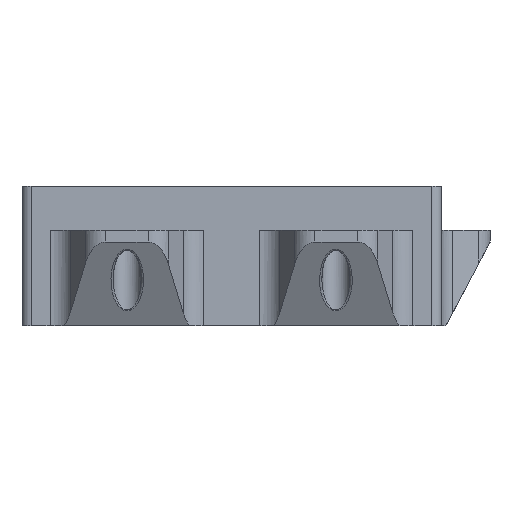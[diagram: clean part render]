
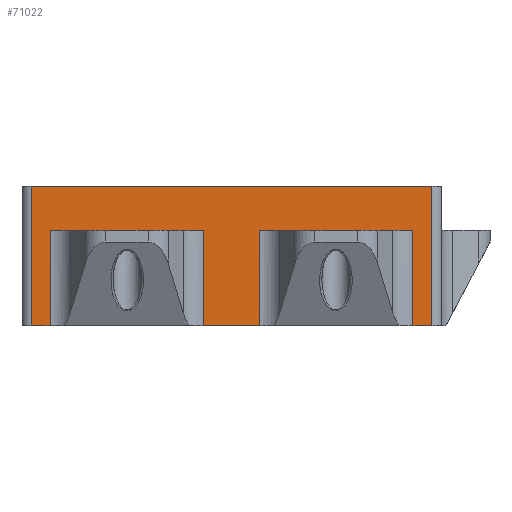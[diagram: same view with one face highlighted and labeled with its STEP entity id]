
A CAD part, left-side view. The second image highlights one B-rep face of the part: STEP entity #71022.
In plain terms, the highlighted planar face has unit normal (-1, 0, 0).
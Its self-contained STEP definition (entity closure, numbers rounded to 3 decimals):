
#1562=PLANE('',#74989);
#4963=FACE_OUTER_BOUND('',#8571,.T.);
#8571=EDGE_LOOP('',(#51994,#51995,#51996,#51997,#51998,#51999,#52000,#52001,
#52002,#52003,#52004,#52005));
#13289=LINE('',#99055,#22924);
#13296=LINE('',#99077,#22931);
#13298=LINE('',#99085,#22933);
#13300=LINE('',#99092,#22935);
#13367=LINE('',#99335,#23002);
#13369=LINE('',#99341,#23004);
#13370=LINE('',#99343,#23005);
#13371=LINE('',#99344,#23006);
#13372=LINE('',#99346,#23007);
#13373=LINE('',#99347,#23008);
#13374=LINE('',#99349,#23009);
#13375=LINE('',#99350,#23010);
#22924=VECTOR('',#80489,10.);
#22931=VECTOR('',#80506,10.);
#22933=VECTOR('',#80512,10.);
#22935=VECTOR('',#80518,10.);
#23002=VECTOR('',#80767,10.);
#23004=VECTOR('',#80773,10.);
#23005=VECTOR('',#80774,10.);
#23006=VECTOR('',#80775,10.);
#23007=VECTOR('',#80776,10.);
#23008=VECTOR('',#80777,10.);
#23009=VECTOR('',#80778,10.);
#23010=VECTOR('',#80779,10.);
#33211=VERTEX_POINT('',#99052);
#33212=VERTEX_POINT('',#99054);
#33221=VERTEX_POINT('',#99074);
#33222=VERTEX_POINT('',#99076);
#33225=VERTEX_POINT('',#99082);
#33226=VERTEX_POINT('',#99084);
#33229=VERTEX_POINT('',#99090);
#33292=VERTEX_POINT('',#99334);
#33294=VERTEX_POINT('',#99340);
#33295=VERTEX_POINT('',#99342);
#33296=VERTEX_POINT('',#99345);
#33297=VERTEX_POINT('',#99348);
#40426=EDGE_CURVE('',#33211,#33212,#13289,.T.);
#40437=EDGE_CURVE('',#33222,#33221,#13296,.T.);
#40441=EDGE_CURVE('',#33226,#33225,#13298,.T.);
#40445=EDGE_CURVE('',#33211,#33229,#13300,.T.);
#40562=EDGE_CURVE('',#33292,#33222,#13367,.T.);
#40565=EDGE_CURVE('',#33229,#33294,#13369,.T.);
#40566=EDGE_CURVE('',#33295,#33294,#13370,.T.);
#40567=EDGE_CURVE('',#33295,#33226,#13371,.T.);
#40568=EDGE_CURVE('',#33225,#33296,#13372,.T.);
#40569=EDGE_CURVE('',#33292,#33296,#13373,.T.);
#40570=EDGE_CURVE('',#33297,#33221,#13374,.T.);
#40571=EDGE_CURVE('',#33297,#33212,#13375,.F.);
#51994=ORIENTED_EDGE('',*,*,#40426,.F.);
#51995=ORIENTED_EDGE('',*,*,#40445,.T.);
#51996=ORIENTED_EDGE('',*,*,#40565,.T.);
#51997=ORIENTED_EDGE('',*,*,#40566,.F.);
#51998=ORIENTED_EDGE('',*,*,#40567,.T.);
#51999=ORIENTED_EDGE('',*,*,#40441,.T.);
#52000=ORIENTED_EDGE('',*,*,#40568,.T.);
#52001=ORIENTED_EDGE('',*,*,#40569,.F.);
#52002=ORIENTED_EDGE('',*,*,#40562,.T.);
#52003=ORIENTED_EDGE('',*,*,#40437,.T.);
#52004=ORIENTED_EDGE('',*,*,#40570,.F.);
#52005=ORIENTED_EDGE('',*,*,#40571,.T.);
#71022=ADVANCED_FACE('',(#4963),#1562,.T.);
#74989=AXIS2_PLACEMENT_3D('',#99339,#80771,#80772);
#80489=DIRECTION('',(0.,0.,1.));
#80506=DIRECTION('',(0.,-1.,0.));
#80512=DIRECTION('',(0.,-1.,0.));
#80518=DIRECTION('',(0.,-1.,0.));
#80767=DIRECTION('',(0.,0.,-1.));
#80771=DIRECTION('center_axis',(-1.,0.,0.));
#80772=DIRECTION('ref_axis',(0.,0.,1.));
#80773=DIRECTION('',(0.,0.,1.));
#80774=DIRECTION('',(0.,1.,0.));
#80775=DIRECTION('',(0.,0.,-1.));
#80776=DIRECTION('',(0.,0.,1.));
#80777=DIRECTION('',(0.,1.,0.));
#80778=DIRECTION('',(0.,0.,-1.));
#80779=DIRECTION('',(0.,-1.,0.));
#99052=CARTESIAN_POINT('',(-183.5,178.,-36.));
#99054=CARTESIAN_POINT('',(-183.5,178.,24.));
#99055=CARTESIAN_POINT('',(-183.5,178.,-0.5));
#99074=CARTESIAN_POINT('',(-183.5,6.,-36.));
#99076=CARTESIAN_POINT('',(-183.5,14.102,-36.));
#99077=CARTESIAN_POINT('',(-183.5,3.,-36.));
#99082=CARTESIAN_POINT('',(-183.5,79.898,-36.));
#99084=CARTESIAN_POINT('',(-183.5,104.102,-36.));
#99085=CARTESIAN_POINT('',(-183.5,37.062,-36.));
#99090=CARTESIAN_POINT('',(-183.5,169.898,-36.));
#99092=CARTESIAN_POINT('',(-183.5,82.062,-36.));
#99334=CARTESIAN_POINT('',(-183.5,14.102,5.));
#99335=CARTESIAN_POINT('',(-183.5,14.102,5.));
#99339=CARTESIAN_POINT('Origin',(-183.5,0.,5.));
#99340=CARTESIAN_POINT('',(-183.5,169.898,5.));
#99341=CARTESIAN_POINT('',(-183.5,169.898,5.));
#99342=CARTESIAN_POINT('',(-183.5,104.102,5.));
#99343=CARTESIAN_POINT('',(-183.5,0.,5.));
#99344=CARTESIAN_POINT('',(-183.5,104.102,5.));
#99345=CARTESIAN_POINT('',(-183.5,79.898,5.));
#99346=CARTESIAN_POINT('',(-183.5,79.898,5.));
#99347=CARTESIAN_POINT('',(-183.5,0.,5.));
#99348=CARTESIAN_POINT('',(-183.5,6.,24.));
#99349=CARTESIAN_POINT('',(-183.5,6.,5.));
#99350=CARTESIAN_POINT('',(-183.5,0.,24.));
